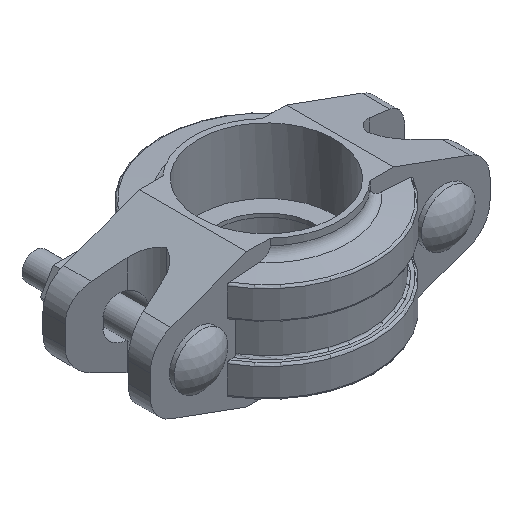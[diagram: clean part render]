
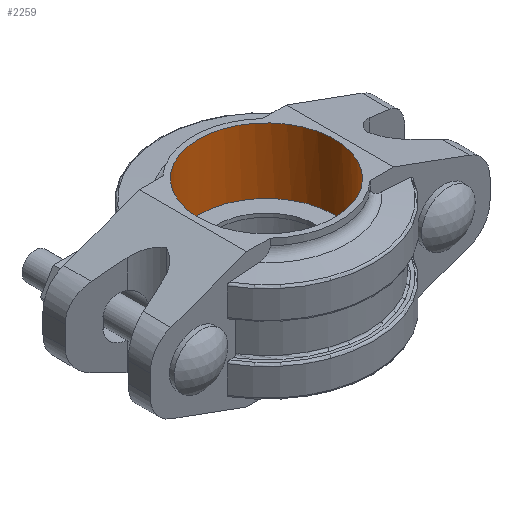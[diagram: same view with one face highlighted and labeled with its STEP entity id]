
A CAD part, isometric view. The second image highlights one B-rep face of the part: STEP entity #2259.
In plain terms, the highlighted cylindrical face has radius 24.13 mm (diameter 48.26 mm), a full revolution.
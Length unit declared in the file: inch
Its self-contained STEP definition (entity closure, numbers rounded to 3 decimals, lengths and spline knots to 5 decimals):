
#208=FACE_OUTER_BOUND('',#323,.T.);
#323=EDGE_LOOP('',(#1446,#1447,#1448,#1449,#1450,#1451));
#446=LINE('',#3301,#617);
#617=VECTOR('',#2652,0.95);
#791=CIRCLE('',#2396,0.95);
#792=CIRCLE('',#2397,0.95);
#793=CIRCLE('',#2399,0.95);
#794=CIRCLE('',#2400,0.95);
#881=VERTEX_POINT('',#3295);
#882=VERTEX_POINT('',#3296);
#883=VERTEX_POINT('',#3300);
#884=VERTEX_POINT('',#3302);
#1108=EDGE_CURVE('',#881,#882,#791,.T.);
#1109=EDGE_CURVE('',#882,#881,#792,.T.);
#1110=EDGE_CURVE('',#882,#883,#446,.T.);
#1111=EDGE_CURVE('',#884,#883,#793,.T.);
#1112=EDGE_CURVE('',#883,#884,#794,.T.);
#1446=ORIENTED_EDGE('',*,*,#1108,.T.);
#1447=ORIENTED_EDGE('',*,*,#1110,.T.);
#1448=ORIENTED_EDGE('',*,*,#1111,.F.);
#1449=ORIENTED_EDGE('',*,*,#1112,.F.);
#1450=ORIENTED_EDGE('',*,*,#1110,.F.);
#1451=ORIENTED_EDGE('',*,*,#1109,.T.);
#2103=CYLINDRICAL_SURFACE('',#2398,0.95);
#2259=ADVANCED_FACE('',(#208),#2103,.F.);
#2396=AXIS2_PLACEMENT_3D('',#3297,#2646,#2647);
#2397=AXIS2_PLACEMENT_3D('',#3298,#2648,#2649);
#2398=AXIS2_PLACEMENT_3D('',#3299,#2650,#2651);
#2399=AXIS2_PLACEMENT_3D('',#3303,#2653,#2654);
#2400=AXIS2_PLACEMENT_3D('',#3304,#2655,#2656);
#2646=DIRECTION('center_axis',(0.,0.,-1.));
#2647=DIRECTION('ref_axis',(0.,-1.,0.));
#2648=DIRECTION('center_axis',(0.,0.,-1.));
#2649=DIRECTION('ref_axis',(0.,-1.,0.));
#2650=DIRECTION('center_axis',(0.,0.,-1.));
#2651=DIRECTION('ref_axis',(0.,-1.,0.));
#2652=DIRECTION('',(0.,0.,1.));
#2653=DIRECTION('center_axis',(0.,0.,-1.));
#2654=DIRECTION('ref_axis',(-1.,0.,0.));
#2655=DIRECTION('center_axis',(0.,0.,-1.));
#2656=DIRECTION('ref_axis',(-1.,0.,0.));
#3295=CARTESIAN_POINT('',(-0.95,0.,0.025));
#3296=CARTESIAN_POINT('',(0.,0.95,0.025));
#3297=CARTESIAN_POINT('Origin',(0.,0.,0.025));
#3298=CARTESIAN_POINT('Origin',(0.,0.,0.025));
#3299=CARTESIAN_POINT('Origin',(0.,0.,0.));
#3300=CARTESIAN_POINT('',(0.,0.95,0.94));
#3301=CARTESIAN_POINT('',(0.,0.95,0.));
#3302=CARTESIAN_POINT('',(0.5831,0.75,0.94));
#3303=CARTESIAN_POINT('Origin',(0.,0.,0.94));
#3304=CARTESIAN_POINT('Origin',(0.,0.,0.94));
